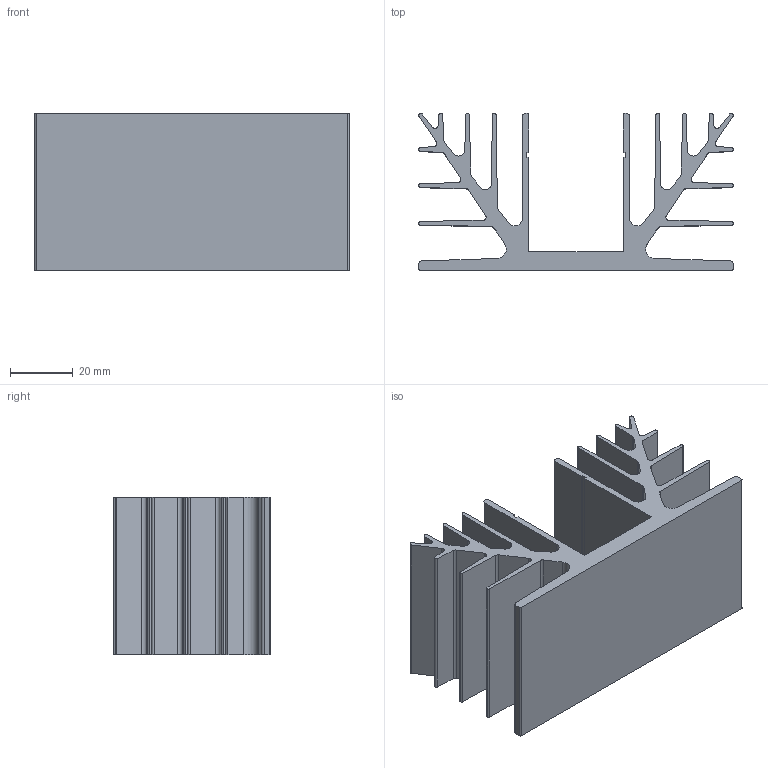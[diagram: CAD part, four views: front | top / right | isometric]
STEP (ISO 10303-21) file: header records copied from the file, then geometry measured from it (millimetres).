
FILE_DESCRIPTION (( 'STEP AP203' ), '1' );
FILE_NAME ('PR 131-50.step', '2002-10-20T23:23:01', ( 'Wolfgang Müller' ), ( 'DPS' ), 'SwSTEP 2.0', 'SolidWorks 2002264', '' );
FILE_SCHEMA (( 'CONFIG_CONTROL_DESIGN' ));
Length unit declared in the file: millimetre
Products named in the file (1): PR 131-50
Bounding box: 100 x 50 x 50 mm (x, y, z)
Volume: 67846.3 mm3; surface area: 47486.3 mm2
Topology: 1 solids, 1 shells, 120 faces, 354 edges, 236 vertices
Faces by surface type: plane 62, cylinder 58
Entity records: 4111 total; most frequent: DIRECTION 712, CARTESIAN_POINT 711, ORIENTED_EDGE 708, EDGE_CURVE 354, LINE 238, VECTOR 238, AXIS2_PLACEMENT_3D 237, VERTEX_POINT 236
